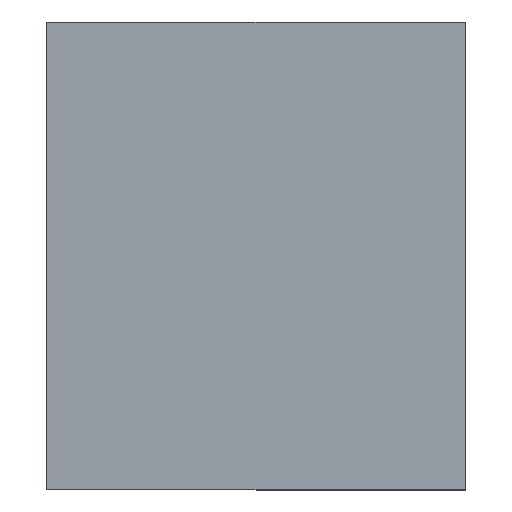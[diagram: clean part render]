
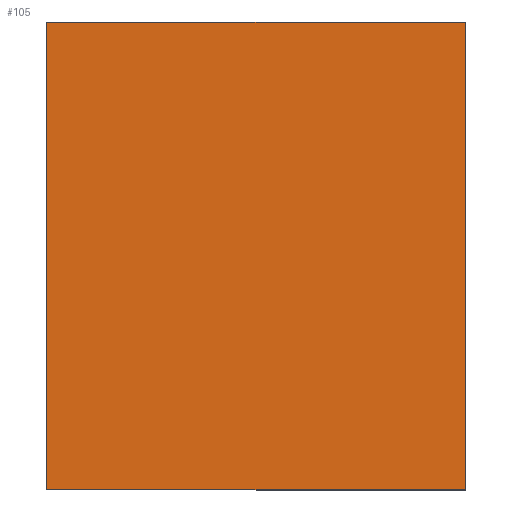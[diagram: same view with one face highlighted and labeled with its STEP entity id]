
A CAD part, top view. The second image highlights one B-rep face of the part: STEP entity #105.
In plain terms, the highlighted planar face has unit normal (0, 0, 1).
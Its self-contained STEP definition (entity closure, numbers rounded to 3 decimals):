
#19=FACE_OUTER_BOUND('',#25,.T.);
#25=EDGE_LOOP('',(#87,#88,#89,#90));
#29=LINE('',#161,#41);
#32=LINE('',#167,#44);
#35=LINE('',#173,#47);
#38=LINE('',#177,#50);
#41=VECTOR('',#133,10.);
#44=VECTOR('',#138,10.);
#47=VECTOR('',#143,10.);
#50=VECTOR('',#148,10.);
#53=VERTEX_POINT('',#158);
#54=VERTEX_POINT('',#160);
#56=VERTEX_POINT('',#166);
#58=VERTEX_POINT('',#172);
#61=EDGE_CURVE('',#54,#53,#29,.T.);
#64=EDGE_CURVE('',#56,#54,#32,.T.);
#67=EDGE_CURVE('',#58,#56,#35,.T.);
#70=EDGE_CURVE('',#53,#58,#38,.T.);
#87=ORIENTED_EDGE('',*,*,#70,.T.);
#88=ORIENTED_EDGE('',*,*,#67,.T.);
#89=ORIENTED_EDGE('',*,*,#64,.T.);
#90=ORIENTED_EDGE('',*,*,#61,.T.);
#99=PLANE('',#125);
#105=ADVANCED_FACE('',(#19),#99,.T.);
#125=AXIS2_PLACEMENT_3D('',#178,#149,#150);
#133=DIRECTION('',(-1.,0.,0.));
#138=DIRECTION('',(0.,1.,0.));
#143=DIRECTION('',(1.,0.,0.));
#148=DIRECTION('',(0.,-1.,0.));
#149=DIRECTION('center_axis',(0.,0.,1.));
#150=DIRECTION('ref_axis',(1.,0.,0.));
#158=CARTESIAN_POINT('',(-33.,658.,-60.));
#160=CARTESIAN_POINT('',(563.,658.,-60.));
#161=CARTESIAN_POINT('',(563.,658.,-60.));
#166=CARTESIAN_POINT('',(563.,-8.,-60.));
#167=CARTESIAN_POINT('',(563.,-8.,-60.));
#172=CARTESIAN_POINT('',(-33.,-8.,-60.));
#173=CARTESIAN_POINT('',(-33.,-8.,-60.));
#177=CARTESIAN_POINT('',(-33.,658.,-60.));
#178=CARTESIAN_POINT('Origin',(265.,325.,-60.));
